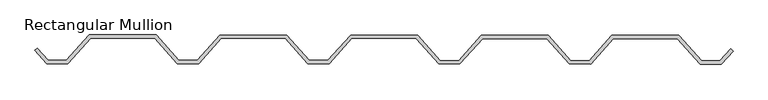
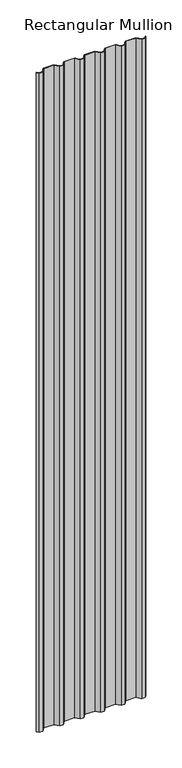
"""IFC4 building model written with IfcOpenShell, lengths in millimetres: member geometry, Rectangular Mullion : Telha Metálica - Trapezoidal."""

from ifc_helpers import new_model, si_unit, frame, origin, place, context, project, spatial, polyline, outline, extrude, source, transform, mapped, element, save


def rectangular_mullion_734f26e5(model_context):
    return source(origin(), model_context, "Body", "SweptSolid", [
        extrude(outline(polyline([(440.066155, 75.6159987), (344.0661915, 75.6997745), (310.0330432, 37.7294595), (278.0330554, 37.7573848), (244.0662296, 75.7870409), (148.0662661, 75.8708167), (114.0331178, 37.9005018), (82.03313, 37.928427), (48.0663042, 75.9580832), (-47.9336592, 76.041859), (-81.9668075, 38.071544), (-113.9667953, 38.0994693), (-147.9336211, 76.1291254), (-243.9335846, 76.2129012), (-277.9667329, 38.2425863), (-309.9667207, 38.2705115), (-343.9335465, 76.3001677), (-439.93351, 76.3839434), (-473.9666583, 38.4136285), (-505.9666461, 38.4415538), (-523.4905169, 58.0614849), (-519.9464424, 61.5993792), (-503.7267316, 43.439601), (-476.1978461, 43.4155775), (-442.1646978, 81.3858924), (-341.693632, 81.2982149), (-307.7268062, 43.2685587), (-280.1979207, 43.2445352), (-246.1647724, 81.2148502), (-145.6937067, 81.1271726), (-111.7268809, 43.0975165), (-84.1979953, 43.073493), (-50.164847, 81.0438079), (50.3062187, 80.9561304), (84.2730445, 42.9264742), (111.80193, 42.9024508), (145.8350783, 80.8727657), (246.3061441, 80.7850881), (280.2729699, 42.755432), (307.8018554, 42.7314085), (341.8350037, 80.7017235), (442.3060694, 80.6140459), (476.2728952, 42.5843898), (503.8017808, 42.5603663), (520.072301, 60.7131616), (523.6101953, 57.1690871), (506.0329686, 37.5584173), (474.0329808, 37.5863426), (440.066155, 75.6159987)])), frame((0.0, 0.0, -6670.0082767), z_axis=(0.0, 0.0, 1.0), x_axis=(1.0, 0.0, 0.0)), (0.0, 0.0, 1.0), 6670.0082767),
    ])


if __name__ == "__main__":
    model = new_model("IFC4")
    model_context = context("Model", 3, world=origin())
    ifc_project = project(units=[si_unit("LENGTHUNIT", "METRE", prefix="MILLI")], contexts=[model_context])
    site = spatial("IfcSite", under=ifc_project)
    building = spatial("IfcBuilding", under=site)
    placement = place(None, origin())
    rectangular_mullion_shape = rectangular_mullion_734f26e5(model_context)
    element("IfcMember", 1, ObjectType="Rectangular Mullion : Telha Metálica - Trapezoidal", at=placement, inside=building, context=model_context, shape_type="MappedRepresentation", body=[
        mapped(rectangular_mullion_shape, transform((0.0, 0.0, 0.0), x_axis=(1.0, 0.0, 0.0), y_axis=(0.0, 1.0, 0.0), z_axis=(0.0, 0.0, 1.0))),
    ])
    save(model, "model.ifc")
